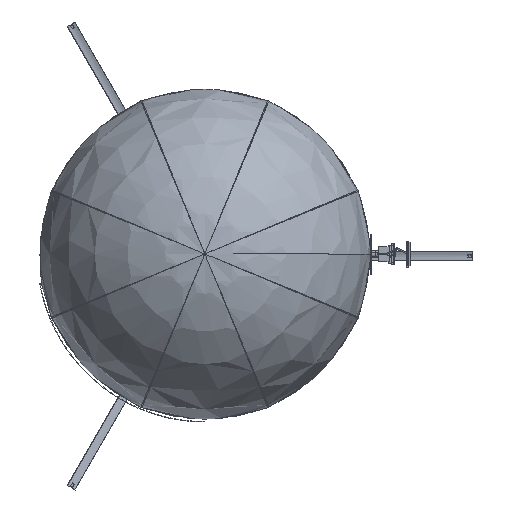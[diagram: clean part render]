
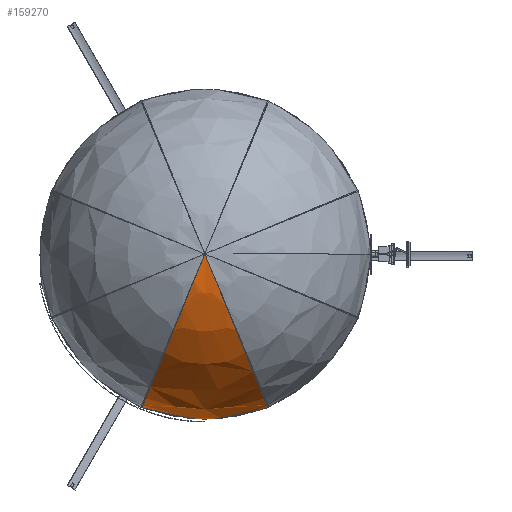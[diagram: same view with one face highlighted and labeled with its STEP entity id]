
A CAD part, top view. The second image highlights one B-rep face of the part: STEP entity #159270.
In plain terms, the highlighted spherical face has radius 243.309 mm.
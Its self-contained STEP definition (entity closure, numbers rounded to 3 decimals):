
#159270 = ADVANCED_FACE('',(#159271),#159286,.T.);
#159271 = FACE_BOUND('',#159272,.T.);
#159272 = EDGE_LOOP('',(#159273,#159309));
#159273 = ORIENTED_EDGE('',*,*,#159274,.T.);
#159274 = EDGE_CURVE('',#159275,#159277,#159279,.T.);
#159275 = VERTEX_POINT('',#159276);
#159276 = CARTESIAN_POINT('',(0.,0.,
    -243.309));
#159277 = VERTEX_POINT('',#159278);
#159278 = CARTESIAN_POINT('',(0.,0.,
    243.309));
#159279 = SURFACE_CURVE('',#159280,(#159285,#159297),.PCURVE_S1.);
#159280 = CIRCLE('',#159281,243.309);
#159281 = AXIS2_PLACEMENT_3D('',#159282,#159283,#159284);
#159282 = CARTESIAN_POINT('',(0.,0.,0.
    ));
#159283 = DIRECTION('',(-0.923,-0.386,0.));
#159284 = DIRECTION('',(0.386,-0.923,0.));
#159285 = PCURVE('',#159286,#159291);
#159286 = SPHERICAL_SURFACE('',#159287,243.309);
#159287 = AXIS2_PLACEMENT_3D('',#159288,#159289,#159290);
#159288 = CARTESIAN_POINT('',(0.,0.,0.));
#159289 = DIRECTION('',(0.,0.,1.));
#159290 = DIRECTION('',(1.,0.,-0.));
#159291 = DEFINITIONAL_REPRESENTATION('',(#159292),#159296);
#159292 = LINE('',#159293,#159294);
#159293 = CARTESIAN_POINT('',(5.109,-6.283));
#159294 = VECTOR('',#159295,1.);
#159295 = DIRECTION('',(0.,1.));
#159296 = ( GEOMETRIC_REPRESENTATION_CONTEXT(2) 
PARAMETRIC_REPRESENTATION_CONTEXT() REPRESENTATION_CONTEXT('2D SPACE',''
  ) );
#159297 = PCURVE('',#159298,#159303);
#159298 = PLANE('',#159299);
#159299 = AXIS2_PLACEMENT_3D('',#159300,#159301,#159302);
#159300 = CARTESIAN_POINT('',(234.302,-560.117,-303.574)
  );
#159301 = DIRECTION('',(-0.923,-0.386,0.));
#159302 = DIRECTION('',(-0.386,0.923,0.));
#159303 = DEFINITIONAL_REPRESENTATION('',(#159304),#159308);
#159304 = CIRCLE('',#159305,243.309);
#159305 = AXIS2_PLACEMENT_2D('',#159306,#159307);
#159306 = CARTESIAN_POINT('',(607.148,-303.574));
#159307 = DIRECTION('',(-1.,-0.));
#159308 = ( GEOMETRIC_REPRESENTATION_CONTEXT(2) 
PARAMETRIC_REPRESENTATION_CONTEXT() REPRESENTATION_CONTEXT('2D SPACE',''
  ) );
#159309 = ORIENTED_EDGE('',*,*,#159310,.T.);
#159310 = EDGE_CURVE('',#159277,#159275,#159311,.T.);
#159311 = SURFACE_CURVE('',#159312,(#159317,#159324),.PCURVE_S1.);
#159312 = CIRCLE('',#159313,243.309);
#159313 = AXIS2_PLACEMENT_3D('',#159314,#159315,#159316);
#159314 = CARTESIAN_POINT('',(0.,0.,0.));
#159315 = DIRECTION('',(0.923,-0.386,0.));
#159316 = DIRECTION('',(0.386,0.923,0.));
#159317 = PCURVE('',#159286,#159318);
#159318 = DEFINITIONAL_REPRESENTATION('',(#159319),#159323);
#159319 = LINE('',#159320,#159321);
#159320 = CARTESIAN_POINT('',(4.316,3.142));
#159321 = VECTOR('',#159322,1.);
#159322 = DIRECTION('',(0.,-1.));
#159323 = ( GEOMETRIC_REPRESENTATION_CONTEXT(2) 
PARAMETRIC_REPRESENTATION_CONTEXT() REPRESENTATION_CONTEXT('2D SPACE',''
  ) );
#159324 = PCURVE('',#159325,#159330);
#159325 = PLANE('',#159326);
#159326 = AXIS2_PLACEMENT_3D('',#159327,#159328,#159329);
#159327 = CARTESIAN_POINT('',(0.,0.,-303.574));
#159328 = DIRECTION('',(0.923,-0.386,0.));
#159329 = DIRECTION('',(-0.386,-0.923,0.));
#159330 = DEFINITIONAL_REPRESENTATION('',(#159331),#159335);
#159331 = CIRCLE('',#159332,243.309);
#159332 = AXIS2_PLACEMENT_2D('',#159333,#159334);
#159333 = CARTESIAN_POINT('',(0.,-303.574));
#159334 = DIRECTION('',(-1.,0.));
#159335 = ( GEOMETRIC_REPRESENTATION_CONTEXT(2) 
PARAMETRIC_REPRESENTATION_CONTEXT() REPRESENTATION_CONTEXT('2D SPACE',''
  ) );
